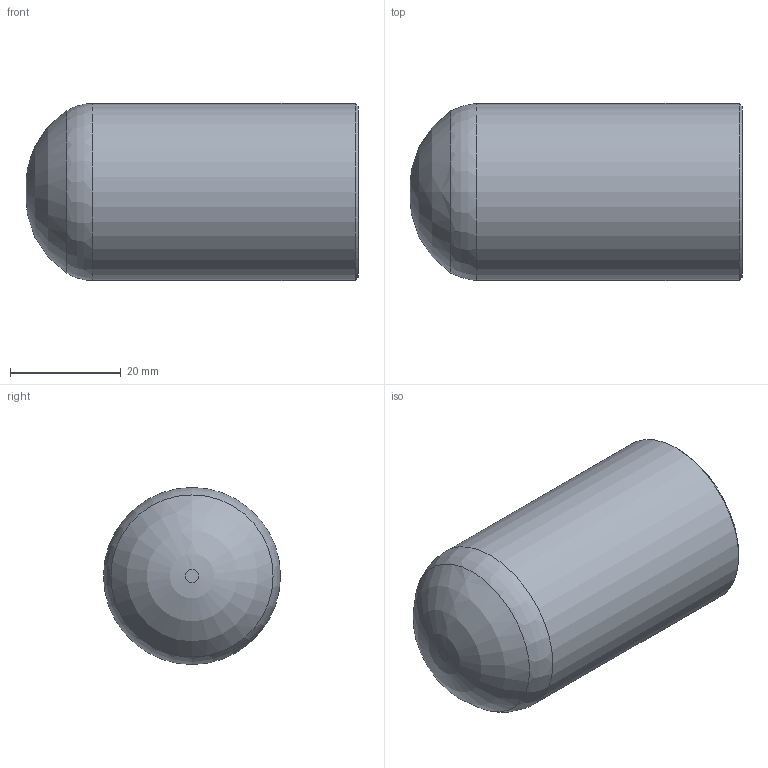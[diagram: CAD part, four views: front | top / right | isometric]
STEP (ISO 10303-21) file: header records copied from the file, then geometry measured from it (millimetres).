
FILE_DESCRIPTION(/* description */ ('Unknown'),/* implementation_level */ '2;1');
FILE_NAME(/* name */ 'CAP032C',/* time_stamp */ '2021-04-30T17:13:09+02:00',/* author */ ('Unknown'),/* organization */ ('Unknown'),/* preprocessor_version */ 'ST-DEVELOPER v16.7',/* originating_system */ 'Solid Edge',/* authorisation */ 'Unknown');
FILE_SCHEMA (('AUTOMOTIVE_DESIGN {1 0 10303 214 3 1 1}'));
Length unit declared in the file: millimetre
Products named in the file (1): CAP032C
Bounding box: 60 x 32 x 32 mm (x, y, z)
Volume: 17130 mm3; surface area: 11048.6 mm2
Topology: 1 solids, 1 shells, 9 faces, 15 edges, 9 vertices
Faces by surface type: plane 3, torus 3, cylinder 2, cone 1
Full cylindrical faces by diameter (mm): 26 x1, 32 x1
Entity records: 204 total; most frequent: DIRECTION 36, CARTESIAN_POINT 26, AXIS2_PLACEMENT_3D 18, ORIENTED_EDGE 16, EDGE_LOOP 16, FACE_BOUND 16, ADVANCED_FACE 9, EDGE_CURVE 8
